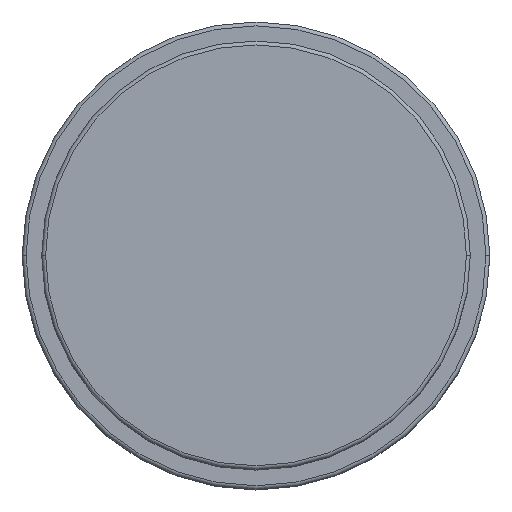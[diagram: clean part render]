
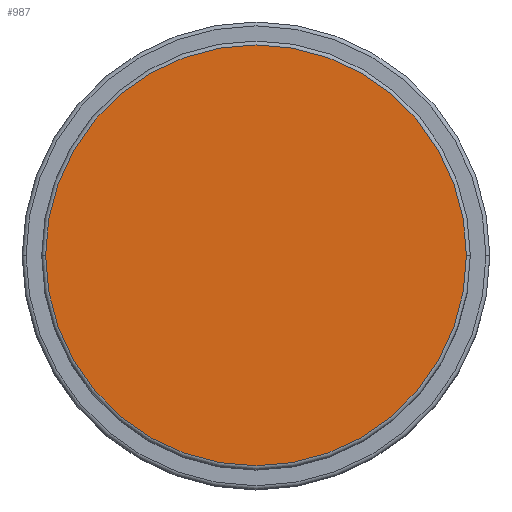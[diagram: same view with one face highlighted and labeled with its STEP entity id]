
A CAD part, top view. The second image highlights one B-rep face of the part: STEP entity #987.
In plain terms, the highlighted planar face has unit normal (0, 0, 1).
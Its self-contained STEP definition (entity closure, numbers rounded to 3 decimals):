
#33 = CARTESIAN_POINT ( 'NONE',  ( 0., 0., 61. ) ) ;
#258 = CARTESIAN_POINT ( 'NONE',  ( 0., 0., 61. ) ) ;
#262 = CARTESIAN_POINT ( 'NONE',  ( 27., 0., 61. ) ) ;
#263 = EDGE_CURVE ( 'NONE', #389, #1696, #1075, .T. ) ;
#378 = DIRECTION ( 'NONE',  ( 1., 0., 0. ) ) ;
#389 = VERTEX_POINT ( 'NONE', #262 ) ;
#586 = ORIENTED_EDGE ( 'NONE', *, *, #263, .T. ) ;
#692 = EDGE_LOOP ( 'NONE', ( #586, #1047 ) ) ;
#824 = CARTESIAN_POINT ( 'NONE',  ( -27., 0., 61. ) ) ;
#899 = CIRCLE ( 'NONE', #1622, 27. ) ;
#987 = ADVANCED_FACE ( 'NONE', ( #1514 ), #1707, .T. ) ;
#1047 = ORIENTED_EDGE ( 'NONE', *, *, #1964, .T. ) ;
#1075 = CIRCLE ( 'NONE', #1375, 27. ) ;
#1349 = DIRECTION ( 'NONE',  ( 1., 0., 0. ) ) ;
#1375 = AXIS2_PLACEMENT_3D ( 'NONE', #33, #1584, #378 ) ;
#1514 = FACE_OUTER_BOUND ( 'NONE', #692, .T. ) ;
#1538 = DIRECTION ( 'NONE',  ( 0., 0., 1. ) ) ;
#1579 = DIRECTION ( 'NONE',  ( 1., 0., 0. ) ) ;
#1584 = DIRECTION ( 'NONE',  ( 0., 0., 1. ) ) ;
#1622 = AXIS2_PLACEMENT_3D ( 'NONE', #258, #1798, #1349 ) ;
#1696 = VERTEX_POINT ( 'NONE', #824 ) ;
#1701 = CARTESIAN_POINT ( 'NONE',  ( 0., 0., 61. ) ) ;
#1707 = PLANE ( 'NONE',  #1749 ) ;
#1749 = AXIS2_PLACEMENT_3D ( 'NONE', #1701, #1538, #1579 ) ;
#1798 = DIRECTION ( 'NONE',  ( 0., 0., 1. ) ) ;
#1964 = EDGE_CURVE ( 'NONE', #1696, #389, #899, .T. ) ;
